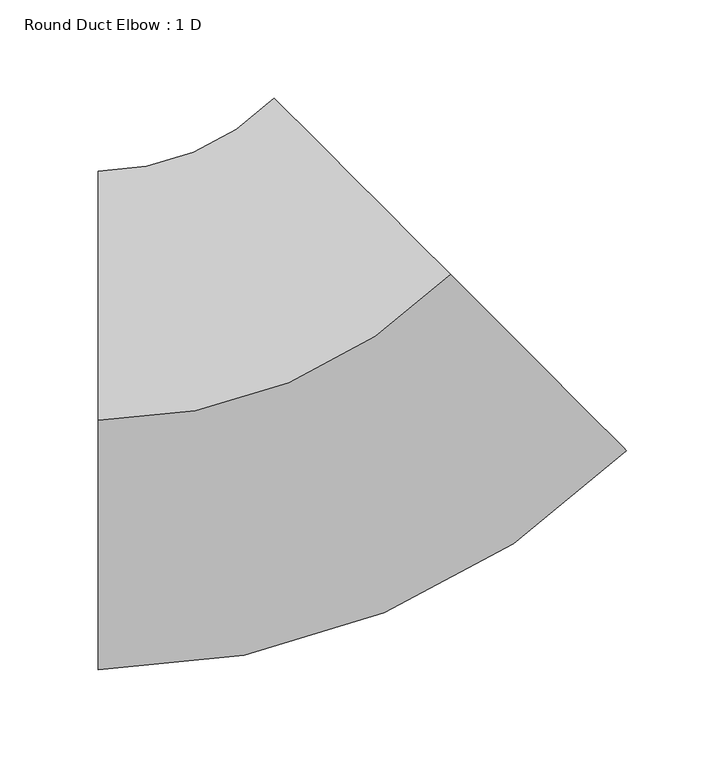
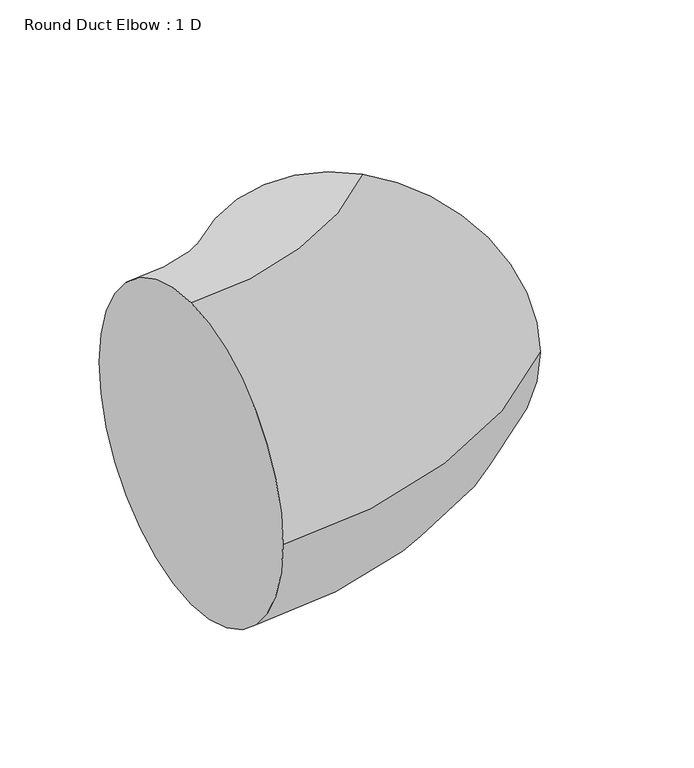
"""IFC4 building model written with IfcOpenShell, lengths in millimetres: duct fitting geometry, Round Duct Elbow : 1 D."""

from ifc_helpers import new_model, si_unit, point, frame, origin, place, context, project, spatial, circle_curve, ellipse_curve, trimmed, source, transform, mapped, element, save
from ifc_brep_helpers import plane_surface, revolved_surface, advanced_brep


def round_duct_elbow_1_d_1086c2ae(model_context):
    return source(origin(), model_context, "Body", "AdvancedBrep", [
        advanced_brep(
        [(-105.2102448, 0.0, 127.0), (-105.2102448, 127.0, 0.0), (-105.2102448, 0.0, -127.0), (-105.2102448, -127.0, 0.0), (74.3948776, 74.3948776, 127.0), (164.1974388, -15.4076836, 0.0), (74.3948776, 74.3948776, -127.0), (-15.4076836, 164.1974388, 0.0)],
        [
            (0, 1, circle_curve(frame((-105.2102448, 0.0, 0.0), z_axis=(-1.0, 0.0, 0.0), x_axis=(0.0, 1.0, 0.0)), 127.0)),
            (1, 2, circle_curve(frame((-105.2102448, 0.0, 0.0), z_axis=(-1.0, 0.0, 0.0), x_axis=(0.0, 1.0, 0.0)), 127.0)),
            (2, 3, circle_curve(frame((-105.2102448, 0.0, 0.0), z_axis=(-1.0, 0.0, 0.0), x_axis=(0.0, 1.0, 0.0)), 127.0)),
            (3, 0, circle_curve(frame((-105.2102448, 0.0, 0.0), z_axis=(-1.0, 0.0, 0.0), x_axis=(0.0, 1.0, 0.0)), 127.0)),
            (4, 5, circle_curve(frame((74.3948776, 74.3948776, 0.0), z_axis=(0.707106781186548, 0.707106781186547, 0.0), x_axis=(-0.707106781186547, 0.707106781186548, 0.0)), 127.0)),
            (5, 6, circle_curve(frame((74.3948776, 74.3948776, 0.0), z_axis=(0.707106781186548, 0.707106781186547, 0.0), x_axis=(-0.707106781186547, 0.707106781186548, 0.0)), 127.0)),
            (6, 7, circle_curve(frame((74.3948776, 74.3948776, 0.0), z_axis=(0.707106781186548, 0.707106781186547, 0.0), x_axis=(-0.707106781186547, 0.707106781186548, 0.0)), 127.0)),
            (7, 4, circle_curve(frame((74.3948776, 74.3948776, 0.0), z_axis=(0.707106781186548, 0.707106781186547, 0.0), x_axis=(-0.707106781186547, 0.707106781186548, 0.0)), 127.0)),
            (7, 1, circle_curve(frame((-105.2102448, 254.0, 0.0), z_axis=(0.0, 0.0, -1.0), x_axis=(0.0, -1.0, 0.0)), 127.0)),
            (0, 4, circle_curve(frame((-105.2102448, 254.0, 127.0), z_axis=(0.0, 0.0, 1.0), x_axis=(0.0, -1.0, 0.0)), 254.0)),
            (6, 2, circle_curve(frame((-105.2102448, 254.0, -127.0), z_axis=(0.0, 0.0, -1.0), x_axis=(0.0, -1.0, 0.0)), 254.0)),
            (5, 3, circle_curve(frame((-105.2102448, 254.0, 0.0), z_axis=(0.0, 0.0, -1.0), x_axis=(0.0, -1.0, 0.0)), 381.0)),
        ],
        [
            plane_surface(frame((-105.2102448, 0.0, 0.0), z_axis=(-1.0, 0.0, 0.0), x_axis=(0.0, 0.0, 1.0))),
            plane_surface(frame((74.3948776, 74.3948776, 0.0), z_axis=(0.707106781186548, 0.7071067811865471, 0.0), x_axis=(0.0, 0.0, 1.0))),
            revolved_surface(trimmed(ellipse_curve(frame((-105.2102448, 0.0, 0.0), z_axis=(-1.0, 0.0, 0.0), x_axis=(0.0, 1.0, 0.0)), 127.0, 127.0), [point((-105.2102448, 0.0, 127.0))], [point((-105.2102448, 127.0, 0.0))], True, "CARTESIAN"), (-105.2102448, 254.0, 0.0), (0.0, 0.0, 1.0)),
            revolved_surface(trimmed(ellipse_curve(frame((-105.2102448, 0.0, 0.0), z_axis=(-1.0, 0.0, 0.0), x_axis=(0.0, 1.0, 0.0)), 127.0, 127.0), [point((-105.2102448, 127.0, 0.0))], [point((-105.2102448, 0.0, -127.0))], True, "CARTESIAN"), (-105.2102448, 254.0, 0.0), (0.0, 0.0, 1.0)),
            revolved_surface(trimmed(ellipse_curve(frame((-105.2102448, 0.0, 0.0), z_axis=(-1.0, 0.0, 0.0), x_axis=(0.0, 1.0, 0.0)), 127.0, 127.0), [point((-105.2102448, 0.0, -127.0))], [point((-105.2102448, -127.0, 0.0))], True, "CARTESIAN"), (-105.2102448, 254.0, 0.0), (0.0, 0.0, 1.0)),
            revolved_surface(trimmed(ellipse_curve(frame((-105.2102448, 0.0, 0.0), z_axis=(-1.0, 0.0, 0.0), x_axis=(0.0, 1.0, 0.0)), 127.0, 127.0), [point((-105.2102448, -127.0, 0.0))], [point((-105.2102448, 0.0, 127.0))], True, "CARTESIAN"), (-105.2102448, 254.0, 0.0), (0.0, 0.0, 1.0)),
        ],
        [
            (0, [[1, 2, 3, 4]]),
            (1, [[5, 6, 7, 8]]),
            (2, [[9, -1, 10, -8]]),
            (3, [[11, -2, -9, -7]]),
            (4, [[12, -3, -11, -6]]),
            (5, [[-10, -4, -12, -5]]),
        ],
    ),
        advanced_brep(
        [(-105.2102448, 0.0, 127.0), (-105.2102448, 127.0, 0.0), (-105.2102448, 0.0, -127.0), (-105.2102448, -127.0, 0.0), (74.3948776, 74.3948776, 127.0), (164.1974388, -15.4076836, 0.0), (74.3948776, 74.3948776, -127.0), (-15.4076836, 164.1974388, 0.0)],
        [
            (0, 1, circle_curve(frame((-105.2102448, 0.0, 0.0), z_axis=(-1.0, 0.0, 0.0), x_axis=(0.0, 1.0, 0.0)), 127.0)),
            (1, 2, circle_curve(frame((-105.2102448, 0.0, 0.0), z_axis=(-1.0, 0.0, 0.0), x_axis=(0.0, 1.0, 0.0)), 127.0)),
            (2, 3, circle_curve(frame((-105.2102448, 0.0, 0.0), z_axis=(-1.0, 0.0, 0.0), x_axis=(0.0, 1.0, 0.0)), 127.0)),
            (3, 0, circle_curve(frame((-105.2102448, 0.0, 0.0), z_axis=(-1.0, 0.0, 0.0), x_axis=(0.0, 1.0, 0.0)), 127.0)),
            (4, 5, circle_curve(frame((74.3948776, 74.3948776, 0.0), z_axis=(0.707106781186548, 0.707106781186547, 0.0), x_axis=(-0.707106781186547, 0.707106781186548, 0.0)), 127.0)),
            (5, 6, circle_curve(frame((74.3948776, 74.3948776, 0.0), z_axis=(0.707106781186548, 0.707106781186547, 0.0), x_axis=(-0.707106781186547, 0.707106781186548, 0.0)), 127.0)),
            (6, 7, circle_curve(frame((74.3948776, 74.3948776, 0.0), z_axis=(0.707106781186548, 0.707106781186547, 0.0), x_axis=(-0.707106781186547, 0.707106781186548, 0.0)), 127.0)),
            (7, 4, circle_curve(frame((74.3948776, 74.3948776, 0.0), z_axis=(0.707106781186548, 0.707106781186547, 0.0), x_axis=(-0.707106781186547, 0.707106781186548, 0.0)), 127.0)),
            (7, 1, circle_curve(frame((-105.2102448, 254.0, 0.0), z_axis=(0.0, 0.0, -1.0), x_axis=(0.0, -1.0, 0.0)), 127.0)),
            (0, 4, circle_curve(frame((-105.2102448, 254.0, 127.0), z_axis=(0.0, 0.0, 1.0), x_axis=(0.0, -1.0, 0.0)), 254.0)),
            (6, 2, circle_curve(frame((-105.2102448, 254.0, -127.0), z_axis=(0.0, 0.0, -1.0), x_axis=(0.0, -1.0, 0.0)), 254.0)),
            (5, 3, circle_curve(frame((-105.2102448, 254.0, 0.0), z_axis=(0.0, 0.0, -1.0), x_axis=(0.0, -1.0, 0.0)), 381.0)),
        ],
        [
            plane_surface(frame((-105.2102448, 0.0, 0.0), z_axis=(-1.0, 0.0, 0.0), x_axis=(0.0, 0.0, 1.0))),
            plane_surface(frame((74.3948776, 74.3948776, 0.0), z_axis=(0.707106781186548, 0.7071067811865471, 0.0), x_axis=(0.0, 0.0, 1.0))),
            revolved_surface(trimmed(ellipse_curve(frame((-105.2102448, 0.0, 0.0), z_axis=(-1.0, 0.0, 0.0), x_axis=(0.0, 1.0, 0.0)), 127.0, 127.0), [point((-105.2102448, 0.0, 127.0))], [point((-105.2102448, 127.0, 0.0))], True, "CARTESIAN"), (-105.2102448, 254.0, 0.0), (0.0, 0.0, 1.0)),
            revolved_surface(trimmed(ellipse_curve(frame((-105.2102448, 0.0, 0.0), z_axis=(-1.0, 0.0, 0.0), x_axis=(0.0, 1.0, 0.0)), 127.0, 127.0), [point((-105.2102448, 127.0, 0.0))], [point((-105.2102448, 0.0, -127.0))], True, "CARTESIAN"), (-105.2102448, 254.0, 0.0), (0.0, 0.0, 1.0)),
            revolved_surface(trimmed(ellipse_curve(frame((-105.2102448, 0.0, 0.0), z_axis=(-1.0, 0.0, 0.0), x_axis=(0.0, 1.0, 0.0)), 127.0, 127.0), [point((-105.2102448, 0.0, -127.0))], [point((-105.2102448, -127.0, 0.0))], True, "CARTESIAN"), (-105.2102448, 254.0, 0.0), (0.0, 0.0, 1.0)),
            revolved_surface(trimmed(ellipse_curve(frame((-105.2102448, 0.0, 0.0), z_axis=(-1.0, 0.0, 0.0), x_axis=(0.0, 1.0, 0.0)), 127.0, 127.0), [point((-105.2102448, -127.0, 0.0))], [point((-105.2102448, 0.0, 127.0))], True, "CARTESIAN"), (-105.2102448, 254.0, 0.0), (0.0, 0.0, 1.0)),
        ],
        [
            (0, [[1, 2, 3, 4]]),
            (1, [[5, 6, 7, 8]]),
            (2, [[9, -1, 10, -8]]),
            (3, [[11, -2, -9, -7]]),
            (4, [[12, -3, -11, -6]]),
            (5, [[-10, -4, -12, -5]]),
        ],
    ),
        advanced_brep(
        [(-105.2102448, 0.0, 127.0), (-105.2102448, 127.0, 0.0), (-105.2102448, 0.0, -127.0), (-105.2102448, -127.0, 0.0), (74.3948776, 74.3948776, 127.0), (164.1974388, -15.4076836, 0.0), (74.3948776, 74.3948776, -127.0), (-15.4076836, 164.1974388, 0.0)],
        [
            (0, 1, circle_curve(frame((-105.2102448, 0.0, 0.0), z_axis=(-1.0, 0.0, 0.0), x_axis=(0.0, 1.0, 0.0)), 127.0)),
            (1, 2, circle_curve(frame((-105.2102448, 0.0, 0.0), z_axis=(-1.0, 0.0, 0.0), x_axis=(0.0, 1.0, 0.0)), 127.0)),
            (2, 3, circle_curve(frame((-105.2102448, 0.0, 0.0), z_axis=(-1.0, 0.0, 0.0), x_axis=(0.0, 1.0, 0.0)), 127.0)),
            (3, 0, circle_curve(frame((-105.2102448, 0.0, 0.0), z_axis=(-1.0, 0.0, 0.0), x_axis=(0.0, 1.0, 0.0)), 127.0)),
            (4, 5, circle_curve(frame((74.3948776, 74.3948776, 0.0), z_axis=(0.707106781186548, 0.707106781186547, 0.0), x_axis=(-0.707106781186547, 0.707106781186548, 0.0)), 127.0)),
            (5, 6, circle_curve(frame((74.3948776, 74.3948776, 0.0), z_axis=(0.707106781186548, 0.707106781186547, 0.0), x_axis=(-0.707106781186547, 0.707106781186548, 0.0)), 127.0)),
            (6, 7, circle_curve(frame((74.3948776, 74.3948776, 0.0), z_axis=(0.707106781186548, 0.707106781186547, 0.0), x_axis=(-0.707106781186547, 0.707106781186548, 0.0)), 127.0)),
            (7, 4, circle_curve(frame((74.3948776, 74.3948776, 0.0), z_axis=(0.707106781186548, 0.707106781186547, 0.0), x_axis=(-0.707106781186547, 0.707106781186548, 0.0)), 127.0)),
            (7, 1, circle_curve(frame((-105.2102448, 254.0, 0.0), z_axis=(0.0, 0.0, -1.0), x_axis=(0.0, -1.0, 0.0)), 127.0)),
            (0, 4, circle_curve(frame((-105.2102448, 254.0, 127.0), z_axis=(0.0, 0.0, 1.0), x_axis=(0.0, -1.0, 0.0)), 254.0)),
            (6, 2, circle_curve(frame((-105.2102448, 254.0, -127.0), z_axis=(0.0, 0.0, -1.0), x_axis=(0.0, -1.0, 0.0)), 254.0)),
            (5, 3, circle_curve(frame((-105.2102448, 254.0, 0.0), z_axis=(0.0, 0.0, -1.0), x_axis=(0.0, -1.0, 0.0)), 381.0)),
        ],
        [
            plane_surface(frame((-105.2102448, 0.0, 0.0), z_axis=(-1.0, 0.0, 0.0), x_axis=(0.0, 0.0, 1.0))),
            plane_surface(frame((74.3948776, 74.3948776, 0.0), z_axis=(0.707106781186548, 0.7071067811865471, 0.0), x_axis=(0.0, 0.0, 1.0))),
            revolved_surface(trimmed(ellipse_curve(frame((-105.2102448, 0.0, 0.0), z_axis=(-1.0, 0.0, 0.0), x_axis=(0.0, 1.0, 0.0)), 127.0, 127.0), [point((-105.2102448, 0.0, 127.0))], [point((-105.2102448, 127.0, 0.0))], True, "CARTESIAN"), (-105.2102448, 254.0, 0.0), (0.0, 0.0, 1.0)),
            revolved_surface(trimmed(ellipse_curve(frame((-105.2102448, 0.0, 0.0), z_axis=(-1.0, 0.0, 0.0), x_axis=(0.0, 1.0, 0.0)), 127.0, 127.0), [point((-105.2102448, 127.0, 0.0))], [point((-105.2102448, 0.0, -127.0))], True, "CARTESIAN"), (-105.2102448, 254.0, 0.0), (0.0, 0.0, 1.0)),
            revolved_surface(trimmed(ellipse_curve(frame((-105.2102448, 0.0, 0.0), z_axis=(-1.0, 0.0, 0.0), x_axis=(0.0, 1.0, 0.0)), 127.0, 127.0), [point((-105.2102448, 0.0, -127.0))], [point((-105.2102448, -127.0, 0.0))], True, "CARTESIAN"), (-105.2102448, 254.0, 0.0), (0.0, 0.0, 1.0)),
            revolved_surface(trimmed(ellipse_curve(frame((-105.2102448, 0.0, 0.0), z_axis=(-1.0, 0.0, 0.0), x_axis=(0.0, 1.0, 0.0)), 127.0, 127.0), [point((-105.2102448, -127.0, 0.0))], [point((-105.2102448, 0.0, 127.0))], True, "CARTESIAN"), (-105.2102448, 254.0, 0.0), (0.0, 0.0, 1.0)),
        ],
        [
            (0, [[1, 2, 3, 4]]),
            (1, [[5, 6, 7, 8]]),
            (2, [[9, -1, 10, -8]]),
            (3, [[11, -2, -9, -7]]),
            (4, [[12, -3, -11, -6]]),
            (5, [[-10, -4, -12, -5]]),
        ],
    ),
    ])


if __name__ == "__main__":
    model = new_model("IFC4")
    model_context = context("Model", 3, world=origin())
    ifc_project = project(units=[si_unit("LENGTHUNIT", "METRE", prefix="MILLI")], contexts=[model_context])
    site = spatial("IfcSite", under=ifc_project)
    building = spatial("IfcBuilding", under=site)
    placement = place(None, origin())
    round_duct_elbow_1_d_shape = round_duct_elbow_1_d_1086c2ae(model_context)
    element("IfcDuctFitting", 1, ObjectType="Round Duct Elbow : 1 D", at=placement, inside=building, context=model_context, shape_type="MappedRepresentation", body=[
        mapped(round_duct_elbow_1_d_shape, transform((0.0, 0.0, 0.0), x_axis=(1.0, 0.0, 0.0), y_axis=(0.0, 1.0, 0.0), z_axis=(0.0, 0.0, 1.0))),
    ])
    save(model, "model.ifc")
